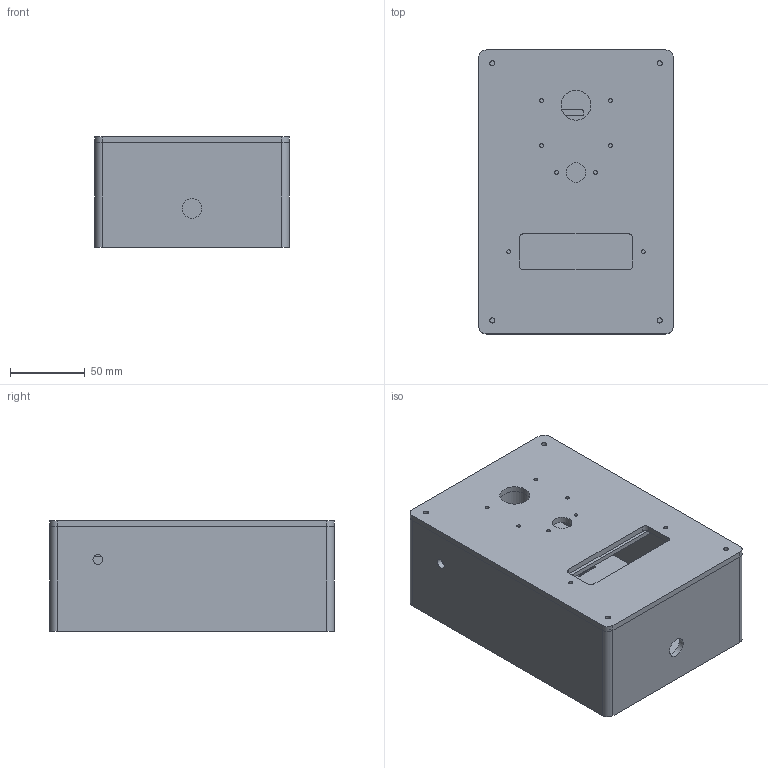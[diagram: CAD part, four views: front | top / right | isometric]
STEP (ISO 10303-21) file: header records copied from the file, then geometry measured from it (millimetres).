
FILE_DESCRIPTION(('Open CASCADE Model'),'2;1');
FILE_NAME('Open CASCADE Shape Model','2026-10-07T15:46:24',('Author'),( 'Open CASCADE'),'Open CASCADE STEP processor 7.9','Open CASCADE 7.9' ,'Unknown');
FILE_SCHEMA(('AUTOMOTIVE_DESIGN { 1 0 10303 214 1 1 1 1 }'));
Length unit declared in the file: millimetre
Products named in the file (7): ForestCase_v02; body; front_lid; mounting_tray; light_barrier; camera_carrier; ir_retainer
Assembly tree (6 placements, depth 2):
  ForestCase_v02
    body
    front_lid
    mounting_tray
    light_barrier
    camera_carrier
    ir_retainer
Bounding box: 130 x 190 x 74 mm (x, y, z)
Volume: 452592.2 mm3; surface area: 244766.9 mm2
Topology: 6 solids, 6 shells, 308 faces, 804 edges, 536 vertices
Faces by surface type: cylinder 156, plane 152
Full cylindrical faces by diameter (mm): 2.6 x12, 3.4 x8, 4.6 x8, 6.5 x1, 10 x8, 13 x1, 13.2 x1, 20 x3, 24 x1, 34 x1
Entity records: 20244 total; most frequent: CARTESIAN_POINT 4199, DIRECTION 2888, ORIENTED_EDGE 1608, PCURVE 1608, DEFINITIONAL_REPRESENTATION 1608, LINE 1416, VECTOR 1416, EDGE_CURVE 804
